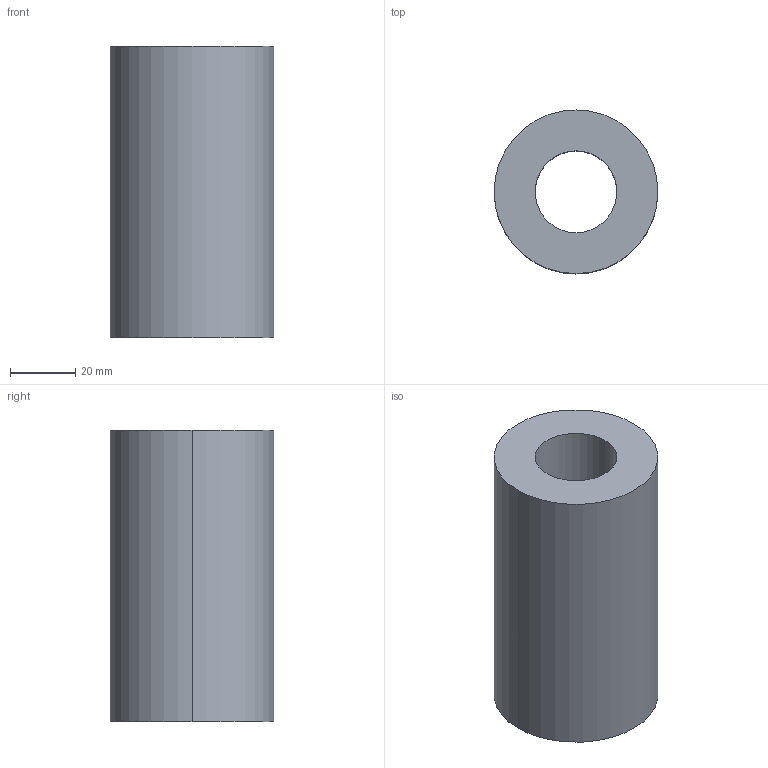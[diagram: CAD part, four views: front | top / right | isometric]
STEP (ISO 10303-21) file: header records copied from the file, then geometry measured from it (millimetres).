
FILE_DESCRIPTION (( 'STEP AP214' ), '1' );
FILE_NAME ('BRV-50X089.STEP', '2020-07-22T11:32:52', ( 'August' ), ( '' ), 'SwSTEP 2.0', 'SolidWorks 2018', '' );
FILE_SCHEMA (( 'AUTOMOTIVE_DESIGN' ));
Length unit declared in the file: millimetre
Products named in the file (1): BRV-50X089
Bounding box: 50 x 50 x 89 mm (x, y, z)
Volume: 131063.3 mm3; surface area: 23915.4 mm2
Topology: 1 solids, 1 shells, 6 faces, 12 edges, 8 vertices
Faces by surface type: cylinder 4, plane 2
Entity records: 202 total; most frequent: DIRECTION 34, CARTESIAN_POINT 27, ORIENTED_EDGE 24, AXIS2_PLACEMENT_3D 15, EDGE_CURVE 12, EDGE_LOOP 8, VERTEX_POINT 8, CIRCLE 8
